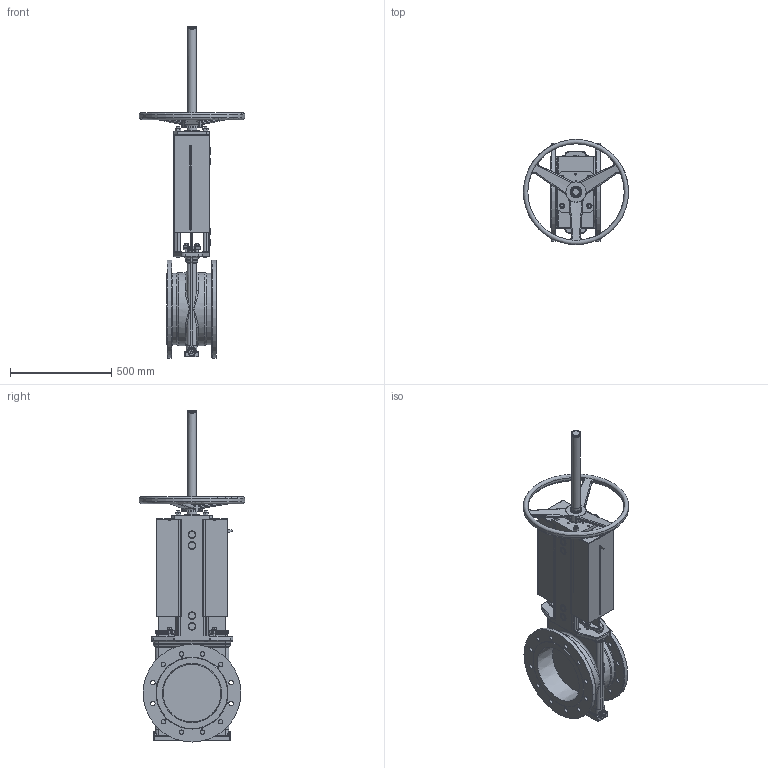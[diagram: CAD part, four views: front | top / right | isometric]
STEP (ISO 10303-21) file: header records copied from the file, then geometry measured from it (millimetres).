
FILE_DESCRIPTION(/* description */ (''),/* implementation_level */ '2;1');
FILE_NAME(/* name */ 'G:\KONSTRUK\3-D Block för kund\SLV-SLF\HAND WHEEL\SLF-DN300-PN10-HW.stp',/* time_stamp */ '2022-11-08T12:04:48+01:00',/* author */ ('DAVKAR'),/* organization */ (''),/* preprocessor_version */ 'ST-DEVELOPER v18.1',/* originating_system */ 'Autodesk Inventor 2022',/* authorisation */ '');
FILE_SCHEMA (('AUTOMOTIVE_DESIGN { 1 0 10303 214 3 1 1 }'));
Products named in the file (1): SLF-DN300-PN10-HW_Simplify_1
Bounding box: 520 x 520 x 1640.6 mm (x, y, z)
Volume: 26715345.4 mm3; surface area: 3955592.4 mm2
Topology: 1 solids, 1 shells, 1368 faces, 3511 edges, 2179 vertices
Faces by surface type: plane 603, cylinder 459, cone 114, torus 110, bspline 74, sphere 8
Full cylindrical faces by diameter (mm): 3.5 x8, 3.6 x10, 4 x2, 4.917 x12, 6 x2, 6.647 x4, 7 x1, 8.376 x12, 12 x9, 13 x6, 15 x4, 16 x12, 17 x4, 18 x1, 22 x24, 23 x1, 24 x12, 24.117 x1, 25 x3, 25.5 x1, 28 x8, 30 x1, 31.7 x2, 33 x1, 36 x2, 37.2 x1, 38 x6, 38.376 x1, 42.4 x2, 47 x1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
Entity records: 49443 total; most frequent: CARTESIAN_POINT 16132, DIRECTION 7073, ORIENTED_EDGE 6962, EDGE_CURVE 3481, AXIS2_PLACEMENT_3D 2704, VERTEX_POINT 2179, LINE 1665, VECTOR 1665
